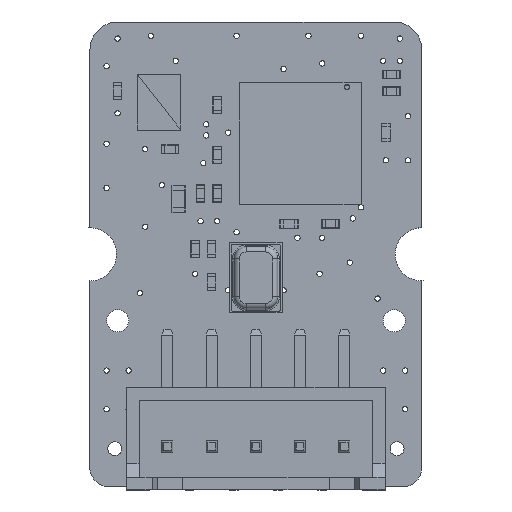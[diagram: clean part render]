
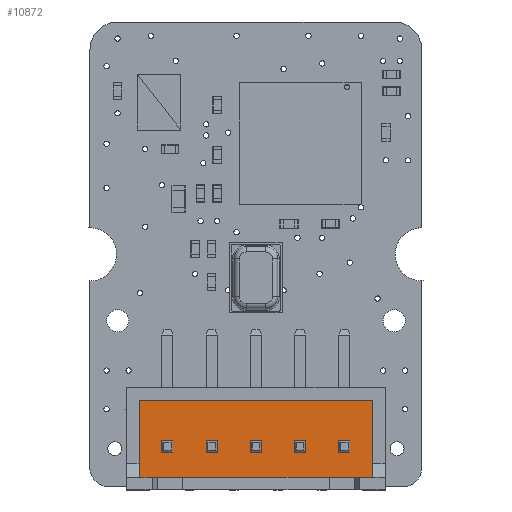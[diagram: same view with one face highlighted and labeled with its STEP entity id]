
A CAD part, top view. The second image highlights one B-rep face of the part: STEP entity #10872.
In plain terms, the highlighted planar face has unit normal (0, 0, 1) as drawn and (0, 1, 0) by its records, which use the part's own axes.
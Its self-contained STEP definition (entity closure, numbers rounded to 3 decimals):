
#8714 = VERTEX_POINT('',#8715);
#8715 = CARTESIAN_POINT('',(6.706,1.031,0.711));
#8721 = EDGE_CURVE('',#8714,#8722,#8724,.T.);
#8722 = VERTEX_POINT('',#8723);
#8723 = CARTESIAN_POINT('',(6.706,1.031,5.131));
#8724 = LINE('',#8725,#8726);
#8725 = CARTESIAN_POINT('',(6.706,1.031,0.711));
#8726 = VECTOR('',#8727,1.);
#8727 = DIRECTION('',(0.,0.,1.));
#10648 = VERTEX_POINT('',#10649);
#10649 = CARTESIAN_POINT('',(-6.706,1.031,5.131));
#10655 = EDGE_CURVE('',#10648,#10656,#10658,.T.);
#10656 = VERTEX_POINT('',#10657);
#10657 = CARTESIAN_POINT('',(-6.706,1.031,0.711));
#10658 = LINE('',#10659,#10660);
#10659 = CARTESIAN_POINT('',(-6.706,1.031,5.131));
#10660 = VECTOR('',#10661,1.);
#10661 = DIRECTION('',(0.,0.,-1.));
#10781 = EDGE_CURVE('',#8722,#10648,#10782,.T.);
#10782 = LINE('',#10783,#10784);
#10783 = CARTESIAN_POINT('',(6.706,1.031,5.131));
#10784 = VECTOR('',#10785,1.);
#10785 = DIRECTION('',(-1.,0.,0.));
#10842 = EDGE_CURVE('',#10656,#8714,#10843,.T.);
#10843 = LINE('',#10844,#10845);
#10844 = CARTESIAN_POINT('',(-6.706,1.031,0.711));
#10845 = VECTOR('',#10846,1.);
#10846 = DIRECTION('',(1.,0.,0.));
#10872 = ADVANCED_FACE('',(#10873,#10879,#10913,#10947,#10981,#11015),
  #11049,.F.);
#10873 = FACE_BOUND('',#10874,.T.);
#10874 = EDGE_LOOP('',(#10875,#10876,#10877,#10878));
#10875 = ORIENTED_EDGE('',*,*,#10655,.F.);
#10876 = ORIENTED_EDGE('',*,*,#10781,.F.);
#10877 = ORIENTED_EDGE('',*,*,#8721,.F.);
#10878 = ORIENTED_EDGE('',*,*,#10842,.F.);
#10879 = FACE_BOUND('',#10880,.T.);
#10880 = EDGE_LOOP('',(#10881,#10891,#10899,#10907));
#10881 = ORIENTED_EDGE('',*,*,#10882,.F.);
#10882 = EDGE_CURVE('',#10883,#10885,#10887,.T.);
#10883 = VERTEX_POINT('',#10884);
#10884 = CARTESIAN_POINT('',(-5.4,1.031,3.033));
#10885 = VERTEX_POINT('',#10886);
#10886 = CARTESIAN_POINT('',(-5.4,1.031,3.673));
#10887 = LINE('',#10888,#10889);
#10888 = CARTESIAN_POINT('',(-5.4,1.031,3.673));
#10889 = VECTOR('',#10890,1.);
#10890 = DIRECTION('',(0.,0.,1.));
#10891 = ORIENTED_EDGE('',*,*,#10892,.F.);
#10892 = EDGE_CURVE('',#10893,#10883,#10895,.T.);
#10893 = VERTEX_POINT('',#10894);
#10894 = CARTESIAN_POINT('',(-4.76,1.031,3.033));
#10895 = LINE('',#10896,#10897);
#10896 = CARTESIAN_POINT('',(-5.4,1.031,3.033));
#10897 = VECTOR('',#10898,1.);
#10898 = DIRECTION('',(-1.,0.,0.));
#10899 = ORIENTED_EDGE('',*,*,#10900,.F.);
#10900 = EDGE_CURVE('',#10901,#10893,#10903,.T.);
#10901 = VERTEX_POINT('',#10902);
#10902 = CARTESIAN_POINT('',(-4.76,1.031,3.673));
#10903 = LINE('',#10904,#10905);
#10904 = CARTESIAN_POINT('',(-4.76,1.031,3.033));
#10905 = VECTOR('',#10906,1.);
#10906 = DIRECTION('',(0.,0.,-1.));
#10907 = ORIENTED_EDGE('',*,*,#10908,.F.);
#10908 = EDGE_CURVE('',#10885,#10901,#10909,.T.);
#10909 = LINE('',#10910,#10911);
#10910 = CARTESIAN_POINT('',(-4.76,1.031,3.673));
#10911 = VECTOR('',#10912,1.);
#10912 = DIRECTION('',(1.,0.,0.));
#10913 = FACE_BOUND('',#10914,.T.);
#10914 = EDGE_LOOP('',(#10915,#10925,#10933,#10941));
#10915 = ORIENTED_EDGE('',*,*,#10916,.F.);
#10916 = EDGE_CURVE('',#10917,#10919,#10921,.T.);
#10917 = VERTEX_POINT('',#10918);
#10918 = CARTESIAN_POINT('',(-2.86,1.031,3.673));
#10919 = VERTEX_POINT('',#10920);
#10920 = CARTESIAN_POINT('',(-2.22,1.031,3.673));
#10921 = LINE('',#10922,#10923);
#10922 = CARTESIAN_POINT('',(-2.22,1.031,3.673));
#10923 = VECTOR('',#10924,1.);
#10924 = DIRECTION('',(1.,0.,0.));
#10925 = ORIENTED_EDGE('',*,*,#10926,.F.);
#10926 = EDGE_CURVE('',#10927,#10917,#10929,.T.);
#10927 = VERTEX_POINT('',#10928);
#10928 = CARTESIAN_POINT('',(-2.86,1.031,3.033));
#10929 = LINE('',#10930,#10931);
#10930 = CARTESIAN_POINT('',(-2.86,1.031,3.673));
#10931 = VECTOR('',#10932,1.);
#10932 = DIRECTION('',(0.,0.,1.));
#10933 = ORIENTED_EDGE('',*,*,#10934,.F.);
#10934 = EDGE_CURVE('',#10935,#10927,#10937,.T.);
#10935 = VERTEX_POINT('',#10936);
#10936 = CARTESIAN_POINT('',(-2.22,1.031,3.033));
#10937 = LINE('',#10938,#10939);
#10938 = CARTESIAN_POINT('',(-2.86,1.031,3.033));
#10939 = VECTOR('',#10940,1.);
#10940 = DIRECTION('',(-1.,0.,0.));
#10941 = ORIENTED_EDGE('',*,*,#10942,.F.);
#10942 = EDGE_CURVE('',#10919,#10935,#10943,.T.);
#10943 = LINE('',#10944,#10945);
#10944 = CARTESIAN_POINT('',(-2.22,1.031,3.033));
#10945 = VECTOR('',#10946,1.);
#10946 = DIRECTION('',(0.,0.,-1.));
#10947 = FACE_BOUND('',#10948,.T.);
#10948 = EDGE_LOOP('',(#10949,#10959,#10967,#10975));
#10949 = ORIENTED_EDGE('',*,*,#10950,.F.);
#10950 = EDGE_CURVE('',#10951,#10953,#10955,.T.);
#10951 = VERTEX_POINT('',#10952);
#10952 = CARTESIAN_POINT('',(-0.32,1.031,3.673));
#10953 = VERTEX_POINT('',#10954);
#10954 = CARTESIAN_POINT('',(0.32,1.031,3.673));
#10955 = LINE('',#10956,#10957);
#10956 = CARTESIAN_POINT('',(0.32,1.031,3.673));
#10957 = VECTOR('',#10958,1.);
#10958 = DIRECTION('',(1.,0.,0.));
#10959 = ORIENTED_EDGE('',*,*,#10960,.F.);
#10960 = EDGE_CURVE('',#10961,#10951,#10963,.T.);
#10961 = VERTEX_POINT('',#10962);
#10962 = CARTESIAN_POINT('',(-0.32,1.031,3.033));
#10963 = LINE('',#10964,#10965);
#10964 = CARTESIAN_POINT('',(-0.32,1.031,3.673));
#10965 = VECTOR('',#10966,1.);
#10966 = DIRECTION('',(0.,0.,1.));
#10967 = ORIENTED_EDGE('',*,*,#10968,.F.);
#10968 = EDGE_CURVE('',#10969,#10961,#10971,.T.);
#10969 = VERTEX_POINT('',#10970);
#10970 = CARTESIAN_POINT('',(0.32,1.031,3.033));
#10971 = LINE('',#10972,#10973);
#10972 = CARTESIAN_POINT('',(-0.32,1.031,3.033));
#10973 = VECTOR('',#10974,1.);
#10974 = DIRECTION('',(-1.,0.,0.));
#10975 = ORIENTED_EDGE('',*,*,#10976,.F.);
#10976 = EDGE_CURVE('',#10953,#10969,#10977,.T.);
#10977 = LINE('',#10978,#10979);
#10978 = CARTESIAN_POINT('',(0.32,1.031,3.033));
#10979 = VECTOR('',#10980,1.);
#10980 = DIRECTION('',(0.,0.,-1.));
#10981 = FACE_BOUND('',#10982,.T.);
#10982 = EDGE_LOOP('',(#10983,#10993,#11001,#11009));
#10983 = ORIENTED_EDGE('',*,*,#10984,.F.);
#10984 = EDGE_CURVE('',#10985,#10987,#10989,.T.);
#10985 = VERTEX_POINT('',#10986);
#10986 = CARTESIAN_POINT('',(2.22,1.031,3.673));
#10987 = VERTEX_POINT('',#10988);
#10988 = CARTESIAN_POINT('',(2.86,1.031,3.673));
#10989 = LINE('',#10990,#10991);
#10990 = CARTESIAN_POINT('',(2.86,1.031,3.673));
#10991 = VECTOR('',#10992,1.);
#10992 = DIRECTION('',(1.,0.,0.));
#10993 = ORIENTED_EDGE('',*,*,#10994,.F.);
#10994 = EDGE_CURVE('',#10995,#10985,#10997,.T.);
#10995 = VERTEX_POINT('',#10996);
#10996 = CARTESIAN_POINT('',(2.22,1.031,3.033));
#10997 = LINE('',#10998,#10999);
#10998 = CARTESIAN_POINT('',(2.22,1.031,3.673));
#10999 = VECTOR('',#11000,1.);
#11000 = DIRECTION('',(0.,0.,1.));
#11001 = ORIENTED_EDGE('',*,*,#11002,.F.);
#11002 = EDGE_CURVE('',#11003,#10995,#11005,.T.);
#11003 = VERTEX_POINT('',#11004);
#11004 = CARTESIAN_POINT('',(2.86,1.031,3.033));
#11005 = LINE('',#11006,#11007);
#11006 = CARTESIAN_POINT('',(2.22,1.031,3.033));
#11007 = VECTOR('',#11008,1.);
#11008 = DIRECTION('',(-1.,0.,0.));
#11009 = ORIENTED_EDGE('',*,*,#11010,.F.);
#11010 = EDGE_CURVE('',#10987,#11003,#11011,.T.);
#11011 = LINE('',#11012,#11013);
#11012 = CARTESIAN_POINT('',(2.86,1.031,3.033));
#11013 = VECTOR('',#11014,1.);
#11014 = DIRECTION('',(0.,0.,-1.));
#11015 = FACE_BOUND('',#11016,.T.);
#11016 = EDGE_LOOP('',(#11017,#11027,#11035,#11043));
#11017 = ORIENTED_EDGE('',*,*,#11018,.F.);
#11018 = EDGE_CURVE('',#11019,#11021,#11023,.T.);
#11019 = VERTEX_POINT('',#11020);
#11020 = CARTESIAN_POINT('',(4.76,1.031,3.673));
#11021 = VERTEX_POINT('',#11022);
#11022 = CARTESIAN_POINT('',(5.4,1.031,3.673));
#11023 = LINE('',#11024,#11025);
#11024 = CARTESIAN_POINT('',(5.4,1.031,3.673));
#11025 = VECTOR('',#11026,1.);
#11026 = DIRECTION('',(1.,0.,0.));
#11027 = ORIENTED_EDGE('',*,*,#11028,.F.);
#11028 = EDGE_CURVE('',#11029,#11019,#11031,.T.);
#11029 = VERTEX_POINT('',#11030);
#11030 = CARTESIAN_POINT('',(4.76,1.031,3.033));
#11031 = LINE('',#11032,#11033);
#11032 = CARTESIAN_POINT('',(4.76,1.031,3.673));
#11033 = VECTOR('',#11034,1.);
#11034 = DIRECTION('',(0.,0.,1.));
#11035 = ORIENTED_EDGE('',*,*,#11036,.F.);
#11036 = EDGE_CURVE('',#11037,#11029,#11039,.T.);
#11037 = VERTEX_POINT('',#11038);
#11038 = CARTESIAN_POINT('',(5.4,1.031,3.033));
#11039 = LINE('',#11040,#11041);
#11040 = CARTESIAN_POINT('',(4.76,1.031,3.033));
#11041 = VECTOR('',#11042,1.);
#11042 = DIRECTION('',(-1.,0.,0.));
#11043 = ORIENTED_EDGE('',*,*,#11044,.F.);
#11044 = EDGE_CURVE('',#11021,#11037,#11045,.T.);
#11045 = LINE('',#11046,#11047);
#11046 = CARTESIAN_POINT('',(5.4,1.031,3.033));
#11047 = VECTOR('',#11048,1.);
#11048 = DIRECTION('',(0.,0.,-1.));
#11049 = PLANE('',#11050);
#11050 = AXIS2_PLACEMENT_3D('',#11051,#11052,#11053);
#11051 = CARTESIAN_POINT('',(0.,1.031,3.353));
#11052 = DIRECTION('',(0.,-1.,0.));
#11053 = DIRECTION('',(-1.,0.,0.));
